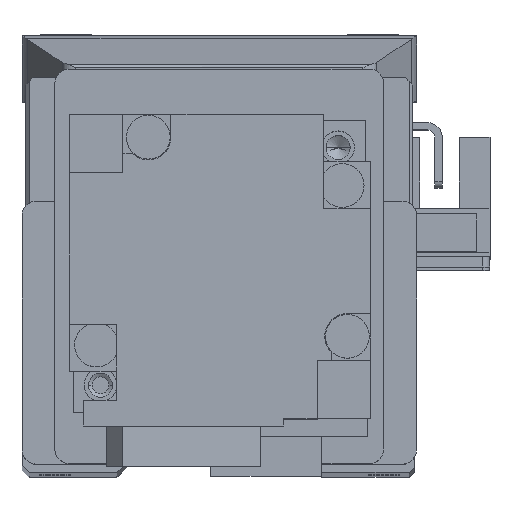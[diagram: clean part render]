
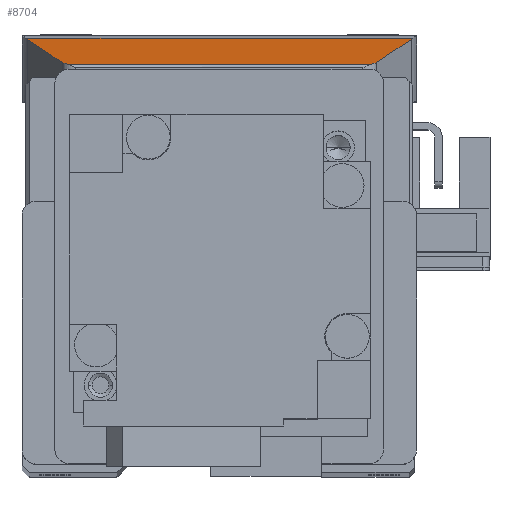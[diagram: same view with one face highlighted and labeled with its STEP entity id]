
A CAD part, top view. The second image highlights one B-rep face of the part: STEP entity #8704.
In plain terms, the highlighted planar face has unit normal (0, 0.966, 0.258).
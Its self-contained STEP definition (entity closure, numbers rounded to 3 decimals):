
#49 = ORIENTED_EDGE ( 'NONE', *, *, #6754, .T. ) ;
#714 = CARTESIAN_POINT ( 'NONE',  ( 21.909, 46.806, 55.728 ) ) ;
#953 = DIRECTION ( 'NONE',  ( 0.361, 0.24, -0.901 ) ) ;
#1926 = AXIS2_PLACEMENT_3D ( 'NONE', #6135, #31593, #3153 ) ;
#2581 = CARTESIAN_POINT ( 'NONE',  ( 27., 46.299, 57.629 ) ) ;
#2670 = EDGE_CURVE ( 'NONE', #18803, #24948, #22726, .T. ) ;
#3153 = DIRECTION ( 'NONE',  ( 0., 0.258, -0.966 ) ) ;
#3863 = CARTESIAN_POINT ( 'NONE',  ( -26.477, 49.862, 44.266 ) ) ;
#4302 = EDGE_CURVE ( 'NONE', #32532, #30229, #30007, .T. ) ;
#4545 = EDGE_LOOP ( 'NONE', ( #16649, #24215, #14875, #49, #30757, #32111, #8037, #36238 ) ) ;
#5143 = CARTESIAN_POINT ( 'NONE',  ( 21.121, 46.359, 57.405 ) ) ;
#5239 = CARTESIAN_POINT ( 'NONE',  ( -21.36, 46.44, 57.101 ) ) ;
#6135 = CARTESIAN_POINT ( 'NONE',  ( 27., 46.299, 57.629 ) ) ;
#6202 = CARTESIAN_POINT ( 'NONE',  ( -14.891, 42.127, 73.273 ) ) ;
#6702 = EDGE_CURVE ( 'NONE', #19956, #18511, #26326, .T. ) ;
#6754 = EDGE_CURVE ( 'NONE', #24948, #8535, #18713, .T. ) ;
#7100 = VECTOR ( 'NONE', #34007, 1000. ) ;
#8037 = ORIENTED_EDGE ( 'NONE', *, *, #4302, .F. ) ;
#8055 = CARTESIAN_POINT ( 'NONE',  ( 26.285, 49.723, 44.788 ) ) ;
#8116 = DIRECTION ( 'NONE',  ( -1., 0., 0. ) ) ;
#8165 = VECTOR ( 'NONE', #16382, 1000. ) ;
#8535 = VERTEX_POINT ( 'NONE', #16593 ) ;
#8704 = ADVANCED_FACE ( 'NONE', ( #14129 ), #11531, .F. ) ;
#9132 = CARTESIAN_POINT ( 'NONE',  ( -21.503, 46.535, 56.743 ) ) ;
#9680 = EDGE_CURVE ( 'NONE', #18511, #18803, #15009, .T. ) ;
#10088 = CARTESIAN_POINT ( 'NONE',  ( 26.477, 49.862, 44.266 ) ) ;
#10400 = CARTESIAN_POINT ( 'NONE',  ( 26.418, 49.815, 44.442 ) ) ;
#10674 = CARTESIAN_POINT ( 'NONE',  ( 21.36, 46.44, 57.101 ) ) ;
#10885 = CARTESIAN_POINT ( 'NONE',  ( 26.354, 49.769, 44.616 ) ) ;
#11462 = VECTOR ( 'NONE', #8116, 1000. ) ;
#11531 = PLANE ( 'NONE',  #1926 ) ;
#12637 = CARTESIAN_POINT ( 'NONE',  ( -26.418, 49.815, 44.442 ) ) ;
#13365 = CARTESIAN_POINT ( 'NONE',  ( 20.806, 46.299, 57.629 ) ) ;
#13725 = CARTESIAN_POINT ( 'NONE',  ( 21.503, 46.535, 56.743 ) ) ;
#14129 = FACE_OUTER_BOUND ( 'NONE', #4545, .T. ) ;
#14604 = CARTESIAN_POINT ( 'NONE',  ( -20.806, 46.299, 57.629 ) ) ;
#14875 = ORIENTED_EDGE ( 'NONE', *, *, #2670, .T. ) ;
#15009 =( BOUNDED_CURVE ( )  B_SPLINE_CURVE ( 3, ( #8055, #10885, #10400, #30148 ),
 .UNSPECIFIED., .F., .F. ) 
 B_SPLINE_CURVE_WITH_KNOTS ( ( 4, 4 ),
 ( 4.332, 4.388 ),
 .UNSPECIFIED. ) 
 CURVE ( )  GEOMETRIC_REPRESENTATION_ITEM ( )  RATIONAL_B_SPLINE_CURVE ( ( 1., 1., 1., 1. ) ) 
 REPRESENTATION_ITEM ( '' )  );
#15728 = CARTESIAN_POINT ( 'NONE',  ( -26.285, 49.723, 44.788 ) ) ;
#15950 = EDGE_CURVE ( 'NONE', #8535, #27670, #23356, .T. ) ;
#16382 = DIRECTION ( 'NONE',  ( -1., 0., 0. ) ) ;
#16593 = CARTESIAN_POINT ( 'NONE',  ( -26.285, 49.723, 44.788 ) ) ;
#16649 = ORIENTED_EDGE ( 'NONE', *, *, #6702, .T. ) ;
#17645 = CARTESIAN_POINT ( 'NONE',  ( 20.806, 46.299, 57.629 ) ) ;
#18511 = VERTEX_POINT ( 'NONE', #28234 ) ;
#18555 = CARTESIAN_POINT ( 'NONE',  ( -26.477, 49.862, 44.266 ) ) ;
#18637 = CARTESIAN_POINT ( 'NONE',  ( 21.503, 46.535, 56.743 ) ) ;
#18713 =( BOUNDED_CURVE ( )  B_SPLINE_CURVE ( 3, ( #18555, #12637, #29683, #15728 ),
 .UNSPECIFIED., .F., .F. ) 
 B_SPLINE_CURVE_WITH_KNOTS ( ( 4, 4 ),
 ( 1.896, 1.951 ),
 .UNSPECIFIED. ) 
 CURVE ( )  GEOMETRIC_REPRESENTATION_ITEM ( )  RATIONAL_B_SPLINE_CURVE ( ( 1., 1., 1., 1. ) ) 
 REPRESENTATION_ITEM ( '' )  );
#18803 = VERTEX_POINT ( 'NONE', #10088 ) ;
#18822 = VECTOR ( 'NONE', #953, 1000. ) ;
#19956 = VERTEX_POINT ( 'NONE', #18637 ) ;
#22726 = LINE ( 'NONE', #24847, #8165 ) ;
#23356 = LINE ( 'NONE', #6202, #7100 ) ;
#23761 =( BOUNDED_CURVE ( )  B_SPLINE_CURVE ( 3, ( #13365, #5143, #10674, #13725 ),
 .UNSPECIFIED., .F., .F. ) 
 B_SPLINE_CURVE_WITH_KNOTS ( ( 4, 4 ),
 ( 3.761, 4.332 ),
 .UNSPECIFIED. ) 
 CURVE ( )  GEOMETRIC_REPRESENTATION_ITEM ( )  RATIONAL_B_SPLINE_CURVE ( ( 1., 0.973, 0.973, 1. ) ) 
 REPRESENTATION_ITEM ( '' )  );
#24215 = ORIENTED_EDGE ( 'NONE', *, *, #9680, .T. ) ;
#24847 = CARTESIAN_POINT ( 'NONE',  ( 27., 49.862, 44.266 ) ) ;
#24948 = VERTEX_POINT ( 'NONE', #3863 ) ;
#25147 = CARTESIAN_POINT ( 'NONE',  ( -21.121, 46.359, 57.405 ) ) ;
#25611 = EDGE_CURVE ( 'NONE', #27670, #30229, #27829, .T. ) ;
#26326 = LINE ( 'NONE', #714, #18822 ) ;
#27670 = VERTEX_POINT ( 'NONE', #9132 ) ;
#27829 =( BOUNDED_CURVE ( )  B_SPLINE_CURVE ( 3, ( #33169, #5239, #25147, #30383 ),
 .UNSPECIFIED., .F., .F. ) 
 B_SPLINE_CURVE_WITH_KNOTS ( ( 4, 4 ),
 ( 1.951, 2.523 ),
 .UNSPECIFIED. ) 
 CURVE ( )  GEOMETRIC_REPRESENTATION_ITEM ( )  RATIONAL_B_SPLINE_CURVE ( ( 1., 0.973, 0.973, 1. ) ) 
 REPRESENTATION_ITEM ( '' )  );
#28234 = CARTESIAN_POINT ( 'NONE',  ( 26.285, 49.723, 44.788 ) ) ;
#29683 = CARTESIAN_POINT ( 'NONE',  ( -26.354, 49.769, 44.616 ) ) ;
#30007 = LINE ( 'NONE', #2581, #11462 ) ;
#30148 = CARTESIAN_POINT ( 'NONE',  ( 26.477, 49.862, 44.266 ) ) ;
#30229 = VERTEX_POINT ( 'NONE', #14604 ) ;
#30383 = CARTESIAN_POINT ( 'NONE',  ( -20.806, 46.299, 57.629 ) ) ;
#30757 = ORIENTED_EDGE ( 'NONE', *, *, #15950, .T. ) ;
#31593 = DIRECTION ( 'NONE',  ( 0., -0.966, -0.258 ) ) ;
#32111 = ORIENTED_EDGE ( 'NONE', *, *, #25611, .T. ) ;
#32532 = VERTEX_POINT ( 'NONE', #17645 ) ;
#33169 = CARTESIAN_POINT ( 'NONE',  ( -21.503, 46.535, 56.743 ) ) ;
#34007 = DIRECTION ( 'NONE',  ( 0.361, -0.24, 0.901 ) ) ;
#34601 = EDGE_CURVE ( 'NONE', #32532, #19956, #23761, .T. ) ;
#36238 = ORIENTED_EDGE ( 'NONE', *, *, #34601, .T. ) ;
